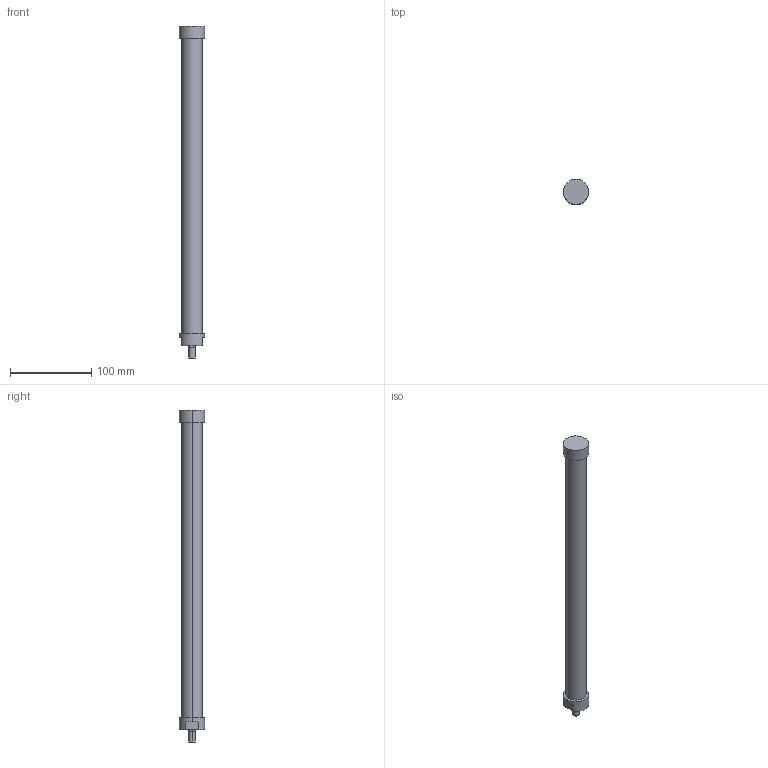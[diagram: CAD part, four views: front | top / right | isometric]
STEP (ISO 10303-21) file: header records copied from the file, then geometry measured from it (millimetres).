
FILE_DESCRIPTION(('STEP AP214'),'1');
FILE_NAME('ETT-R050M404.stp','2015-02-02T14:35:38',(' '),(' '),'Spatial InterOp 3D',' ',' ');
FILE_SCHEMA(('automotive_design'));
Length unit declared in the file: metre
Products named in the file (2): 1; 2
Bounding box: 31 x 31 x 409 mm (x, y, z)
Volume: 201502.6 mm3; surface area: 34181.7 mm2
Topology: 1 solids, 4 shells, 20 faces, 48 edges, 36 vertices
Faces by surface type: cylinder 10, plane 10
Entity records: 812 total; most frequent: DIRECTION 120, CARTESIAN_POINT 106, ORIENTED_EDGE 84, AXIS2_PLACEMENT_3D 50, EDGE_CURVE 48, VERTEX_POINT 36, CIRCLE 28, EDGE_LOOP 24
